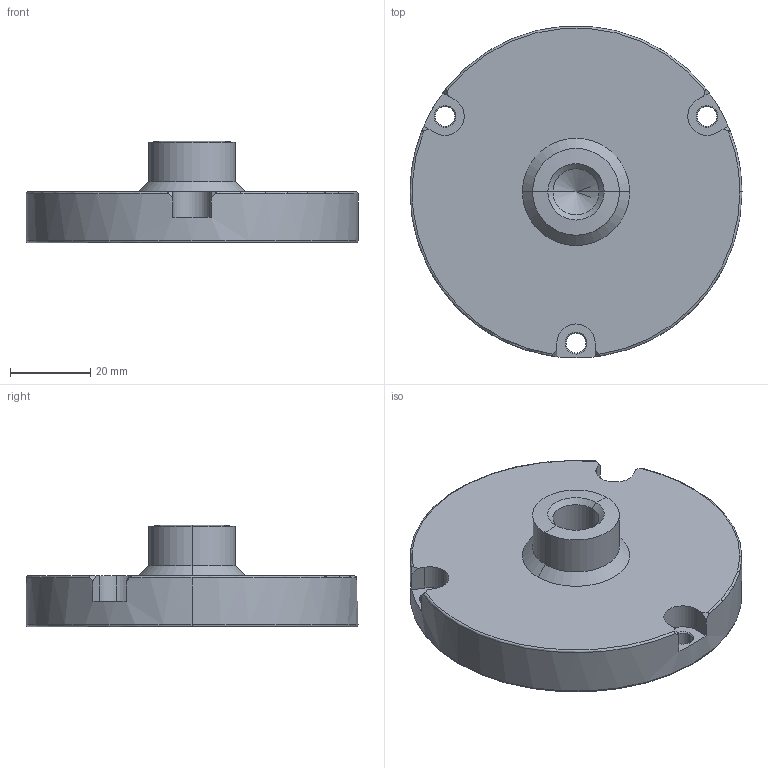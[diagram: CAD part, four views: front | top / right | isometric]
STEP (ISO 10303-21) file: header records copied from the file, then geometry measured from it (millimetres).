
FILE_DESCRIPTION (( 'STEP AP203' ), '1' );
FILE_NAME ('500-00321 TX-1220 (old TX-325) PUF Tension Adapter.STEP', '2016-12-02T04:01:01', ( '' ), ( '' ), 'SwSTEP 2.0', 'SolidWorks 2016', '' );
FILE_SCHEMA (( 'CONFIG_CONTROL_DESIGN' ));
Length unit declared in the file: inch
Products named in the file (1): 500-00321 TX-1220 (old TX-325) PUF Tension Adapter
Bounding box: 82.55 x 82.55 x 25.3 mm (x, y, z)
Volume: 67658.6 mm3; surface area: 15738.9 mm2
Topology: 1 solids, 1 shells, 62 faces, 152 edges, 92 vertices
Faces by surface type: cone 20, plane 18, cylinder 16, torus 6, sphere 2
Entity records: 1944 total; most frequent: CARTESIAN_POINT 377, DIRECTION 333, ORIENTED_EDGE 300, EDGE_CURVE 150, AXIS2_PLACEMENT_3D 132, VERTEX_POINT 92, EDGE_LOOP 70, VECTOR 69
